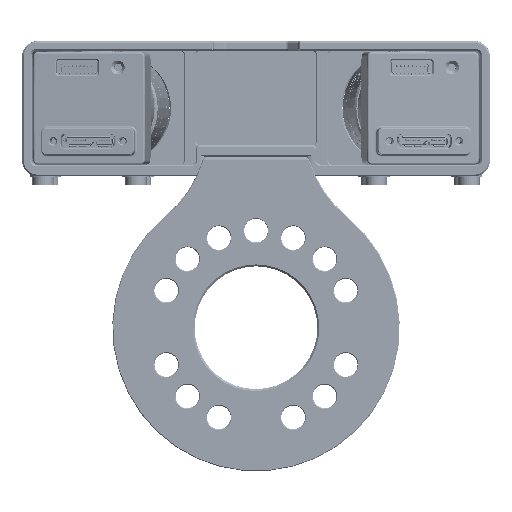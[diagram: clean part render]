
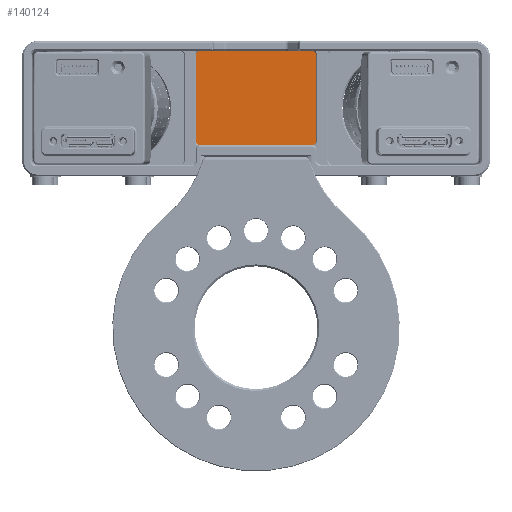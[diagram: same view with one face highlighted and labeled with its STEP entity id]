
A CAD part, front view. The second image highlights one B-rep face of the part: STEP entity #140124.
In plain terms, the highlighted planar face has unit normal (0, -1, 0).
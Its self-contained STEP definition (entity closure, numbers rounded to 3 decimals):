
#13197=PLANE('',#145207);
#19034=FACE_OUTER_BOUND('',#26902,.T.);
#26902=EDGE_LOOP('',(#114698,#114699,#114700,#114701,#114702,#114703,#114704,
#114705));
#36204=LINE('',#248553,#47687);
#36205=LINE('',#248557,#47688);
#36206=LINE('',#248561,#47689);
#36207=LINE('',#248564,#47690);
#47687=VECTOR('',#158351,10.);
#47688=VECTOR('',#158354,10.);
#47689=VECTOR('',#158357,10.);
#47690=VECTOR('',#158360,10.);
#54162=CIRCLE('',#145206,1.1);
#54163=CIRCLE('',#145208,1.1);
#54164=CIRCLE('',#145209,1.1);
#54165=CIRCLE('',#145210,1.1);
#63909=VERTEX_POINT('',#248546);
#63910=VERTEX_POINT('',#248548);
#63911=VERTEX_POINT('',#248552);
#63912=VERTEX_POINT('',#248554);
#63913=VERTEX_POINT('',#248556);
#63914=VERTEX_POINT('',#248558);
#63915=VERTEX_POINT('',#248560);
#63916=VERTEX_POINT('',#248562);
#81871=EDGE_CURVE('',#63910,#63909,#54162,.T.);
#81873=EDGE_CURVE('',#63911,#63909,#36204,.T.);
#81874=EDGE_CURVE('',#63911,#63912,#54163,.T.);
#81875=EDGE_CURVE('',#63912,#63913,#36205,.T.);
#81876=EDGE_CURVE('',#63913,#63914,#54164,.T.);
#81877=EDGE_CURVE('',#63914,#63915,#36206,.T.);
#81878=EDGE_CURVE('',#63915,#63916,#54165,.T.);
#81879=EDGE_CURVE('',#63916,#63910,#36207,.T.);
#114698=ORIENTED_EDGE('',*,*,#81871,.T.);
#114699=ORIENTED_EDGE('',*,*,#81873,.F.);
#114700=ORIENTED_EDGE('',*,*,#81874,.T.);
#114701=ORIENTED_EDGE('',*,*,#81875,.T.);
#114702=ORIENTED_EDGE('',*,*,#81876,.T.);
#114703=ORIENTED_EDGE('',*,*,#81877,.T.);
#114704=ORIENTED_EDGE('',*,*,#81878,.T.);
#114705=ORIENTED_EDGE('',*,*,#81879,.T.);
#140124=ADVANCED_FACE('',(#19034),#13197,.F.);
#145206=AXIS2_PLACEMENT_3D('',#248549,#158346,#158347);
#145207=AXIS2_PLACEMENT_3D('',#248551,#158349,#158350);
#145208=AXIS2_PLACEMENT_3D('',#248555,#158352,#158353);
#145209=AXIS2_PLACEMENT_3D('',#248559,#158355,#158356);
#145210=AXIS2_PLACEMENT_3D('',#248563,#158358,#158359);
#158346=DIRECTION('center_axis',(0.,-1.,0.));
#158347=DIRECTION('ref_axis',(0.707,0.,0.707));
#158349=DIRECTION('center_axis',(0.,1.,0.));
#158350=DIRECTION('ref_axis',(-1.,0.,0.));
#158351=DIRECTION('',(1.,0.,0.));
#158352=DIRECTION('center_axis',(0.,-1.,0.));
#158353=DIRECTION('ref_axis',(-0.707,0.,0.707));
#158354=DIRECTION('',(0.,0.,-1.));
#158355=DIRECTION('center_axis',(0.,-1.,0.));
#158356=DIRECTION('ref_axis',(-0.707,0.,-0.707));
#158357=DIRECTION('',(1.,0.,0.));
#158358=DIRECTION('center_axis',(0.,-1.,0.));
#158359=DIRECTION('ref_axis',(0.707,0.,-0.707));
#158360=DIRECTION('',(0.,0.,1.));
#248546=CARTESIAN_POINT('',(14.43,58.5,27.3));
#248548=CARTESIAN_POINT('',(15.53,58.5,26.2));
#248549=CARTESIAN_POINT('Origin',(14.43,58.5,26.2));
#248551=CARTESIAN_POINT('Origin',(0.,58.5,
12.4));
#248552=CARTESIAN_POINT('',(-14.43,58.5,27.3));
#248553=CARTESIAN_POINT('',(30.375,58.5,27.3));
#248554=CARTESIAN_POINT('',(-15.53,58.5,26.2));
#248555=CARTESIAN_POINT('Origin',(-14.43,58.5,26.2));
#248556=CARTESIAN_POINT('',(-15.53,58.5,4.1));
#248557=CARTESIAN_POINT('',(-15.53,58.5,19.85));
#248558=CARTESIAN_POINT('',(-14.43,58.5,3.));
#248559=CARTESIAN_POINT('Origin',(-14.43,58.5,4.1));
#248560=CARTESIAN_POINT('',(14.43,58.5,3.));
#248561=CARTESIAN_POINT('',(-7.765,58.5,3.));
#248562=CARTESIAN_POINT('',(15.53,58.5,4.1));
#248563=CARTESIAN_POINT('Origin',(14.43,58.5,4.1));
#248564=CARTESIAN_POINT('',(15.53,58.5,19.85));
